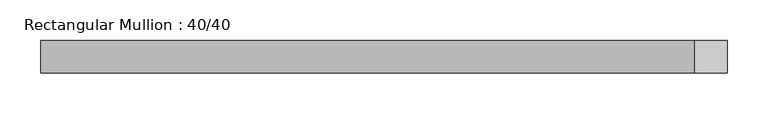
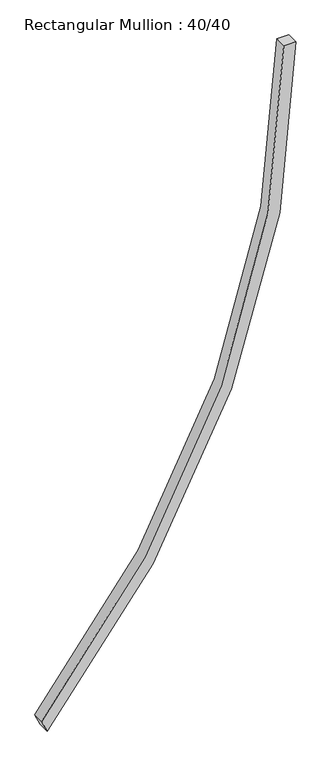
"""IFC4 building model written with IfcOpenShell, lengths in millimetres: member geometry, Rectangular Mullion : 40/40."""

from ifc_helpers import new_model, si_unit, point, frame, frame_2d, origin, place, context, project, spatial, polyline, circle_curve, trimmed, segment, composite_curve, outline, extrude, source, transform, mapped, element, save


def rectangular_mullion_40_40_37a0d8a2(model_context):
    return source(origin(), model_context, "Body", "SweptSolid", [
        extrude(outline(composite_curve([segment(trimmed(circle_curve(frame_2d((0.0, -3156.9497405)), 3156.9497405), [point((-2130.0641588, -826.8943026))], [point((0.0, 0.0))], False, "CARTESIAN"), True, "CONTINUOUS"), segment(polyline([(0.0, 0.0), (0.0, -40.0)]), True, "CONTINUOUS"), segment(trimmed(circle_curve(frame_2d((0.0, -3156.9497405)), 3116.9497405), [point((0.0, -40.0))], [point((-2090.0106827, -844.5416816))], True, "CARTESIAN"), True, "CONTINUOUS"), segment(polyline([(-2090.0106827, -844.5416816), (-2130.0641588, -826.8943026)]), True, "CONTINUOUS")], self_intersect=False)), frame((0.0, -20.0, 0.0), z_axis=(0.0, 1.0, 0.0), x_axis=(0.0, 0.0, 1.0)), (0.0, 0.0, 1.0), 40.0),
    ])


if __name__ == "__main__":
    model = new_model("IFC4")
    model_context = context("Model", 3, world=origin())
    ifc_project = project(units=[si_unit("LENGTHUNIT", "METRE", prefix="MILLI")], contexts=[model_context])
    site = spatial("IfcSite", under=ifc_project)
    building = spatial("IfcBuilding", under=site)
    placement = place(None, origin())
    rectangular_mullion_40_40_shape = rectangular_mullion_40_40_37a0d8a2(model_context)
    element("IfcMember", 1, ObjectType="Rectangular Mullion : 40/40", at=placement, inside=building, context=model_context, shape_type="MappedRepresentation", body=[
        mapped(rectangular_mullion_40_40_shape, transform((0.0, 0.0, 0.0), x_axis=(1.0, 0.0, 0.0), y_axis=(0.0, 1.0, 0.0), z_axis=(0.0, 0.0, 1.0))),
    ])
    save(model, "model.ifc")
